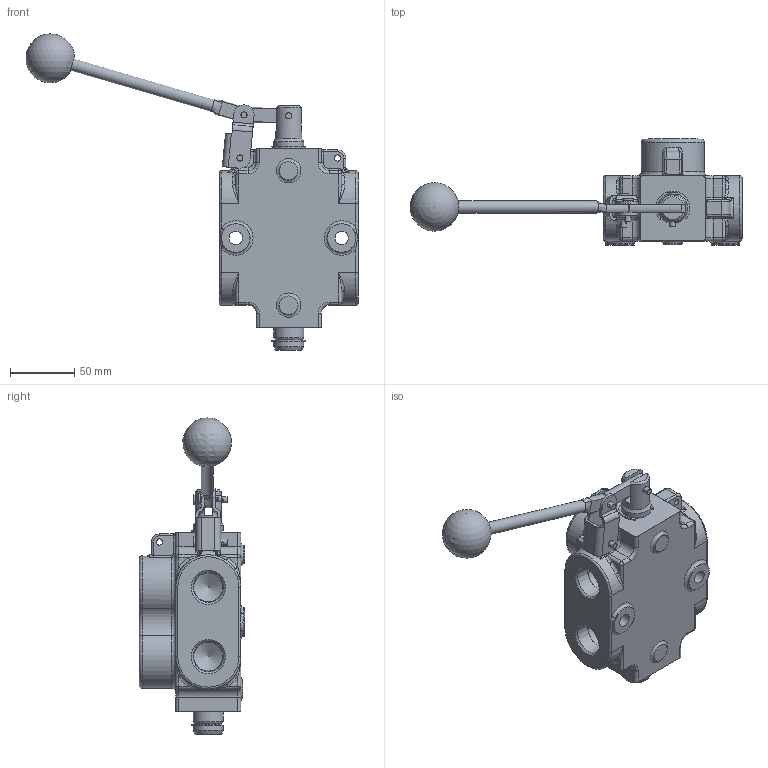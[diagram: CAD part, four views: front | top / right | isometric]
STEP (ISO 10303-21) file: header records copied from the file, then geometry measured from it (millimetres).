
FILE_DESCRIPTION((''),'2;1');
FILE_NAME('C:\Vault\Workspace\z_ShellModels\Misc_RD_RV\DS-4A1E_Shell.stp','2012-03-19T13:45:09',('PetersW'),(''),'Autodesk Inventor 2012','Autodesk Inventor 2012','');
FILE_SCHEMA(('AUTOMOTIVE_DESIGN { 1 0 10303 214 1 1 1 1 }'));
Length unit declared in the file: inch
Products named in the file (1): Part3
Bounding box: 258.76 x 82.55 x 246.51 mm (x, y, z)
Volume: 759200.2 mm3; surface area: 96276 mm2
Topology: 5 solids, 8 shells, 416 faces, 1014 edges, 602 vertices
Faces by surface type: cylinder 164, plane 96, torus 53, bspline 46, cone 39, sphere 18
Full cylindrical faces by diameter (mm): 2.381 x3, 4.661 x3, 4.801 x2, 4.813 x5, 4.826 x4, 4.978 x5, 6.096 x1, 6.401 x2, 7.925 x3, 7.938 x1, 9.525 x1, 10.439 x2, 12.192 x1, 14.275 x1, 20.625 x1, 21.336 x1, 22.225 x2, 22.631 x6, 23.52 x3
Entity records: 13929 total; most frequent: CARTESIAN_POINT 4400, DIRECTION 1956, ORIENTED_EDGE 1716, EDGE_CURVE 858, AXIS2_PLACEMENT_3D 834, VERTEX_POINT 555, EDGE_LOOP 553, CIRCLE 461
